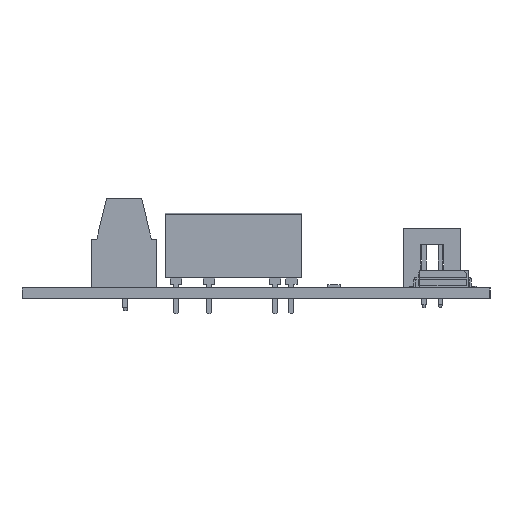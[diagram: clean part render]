
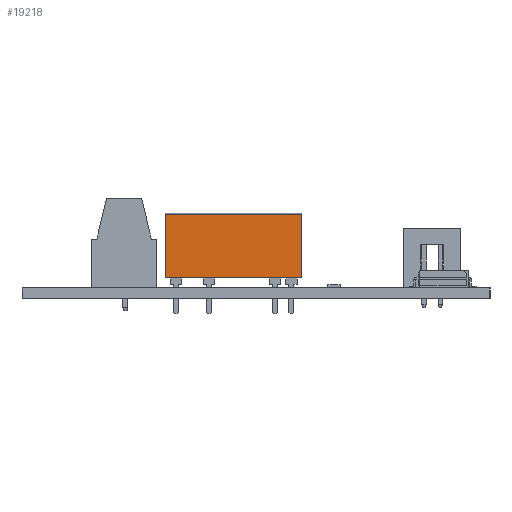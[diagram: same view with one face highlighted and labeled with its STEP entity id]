
A CAD part, left-side view. The second image highlights one B-rep face of the part: STEP entity #19218.
In plain terms, the highlighted planar face has unit normal (-1, 0, 0) as drawn and (1, 0, 0) by its records, which use the part's own axes.
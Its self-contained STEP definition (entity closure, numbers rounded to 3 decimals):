
#19218 = ADVANCED_FACE('',(#19219),#19253,.T.);
#19219 = FACE_BOUND('',#19220,.T.);
#19220 = EDGE_LOOP('',(#19221,#19231,#19239,#19247));
#19221 = ORIENTED_EDGE('',*,*,#19222,.T.);
#19222 = EDGE_CURVE('',#19223,#19225,#19227,.T.);
#19223 = VERTEX_POINT('',#19224);
#19224 = CARTESIAN_POINT('',(1.5,4.849,0.));
#19225 = VERTEX_POINT('',#19226);
#19226 = CARTESIAN_POINT('',(1.5,4.849,21.));
#19227 = LINE('',#19228,#19229);
#19228 = CARTESIAN_POINT('',(1.5,4.849,21.));
#19229 = VECTOR('',#19230,1.);
#19230 = DIRECTION('',(0.,0.,1.));
#19231 = ORIENTED_EDGE('',*,*,#19232,.T.);
#19232 = EDGE_CURVE('',#19225,#19233,#19235,.T.);
#19233 = VERTEX_POINT('',#19234);
#19234 = CARTESIAN_POINT('',(1.5,-4.849,21.));
#19235 = LINE('',#19236,#19237);
#19236 = CARTESIAN_POINT('',(1.5,0.,21.));
#19237 = VECTOR('',#19238,1.);
#19238 = DIRECTION('',(0.,-1.,0.));
#19239 = ORIENTED_EDGE('',*,*,#19240,.T.);
#19240 = EDGE_CURVE('',#19233,#19241,#19243,.T.);
#19241 = VERTEX_POINT('',#19242);
#19242 = CARTESIAN_POINT('',(1.5,-4.849,0.));
#19243 = LINE('',#19244,#19245);
#19244 = CARTESIAN_POINT('',(1.5,-4.849,21.));
#19245 = VECTOR('',#19246,1.);
#19246 = DIRECTION('',(0.,0.,-1.));
#19247 = ORIENTED_EDGE('',*,*,#19248,.T.);
#19248 = EDGE_CURVE('',#19241,#19223,#19249,.T.);
#19249 = LINE('',#19250,#19251);
#19250 = CARTESIAN_POINT('',(1.5,0.,0.));
#19251 = VECTOR('',#19252,1.);
#19252 = DIRECTION('',(0.,1.,0.));
#19253 = PLANE('',#19254);
#19254 = AXIS2_PLACEMENT_3D('',#19255,#19256,#19257);
#19255 = CARTESIAN_POINT('',(1.5,0.,21.));
#19256 = DIRECTION('',(1.,0.,0.));
#19257 = DIRECTION('',(0.,0.,-1.));
